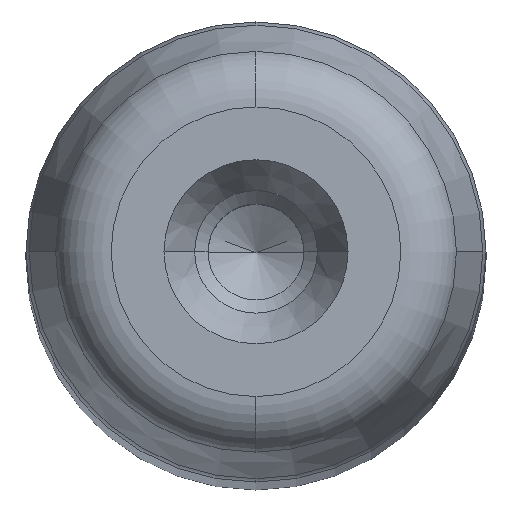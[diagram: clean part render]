
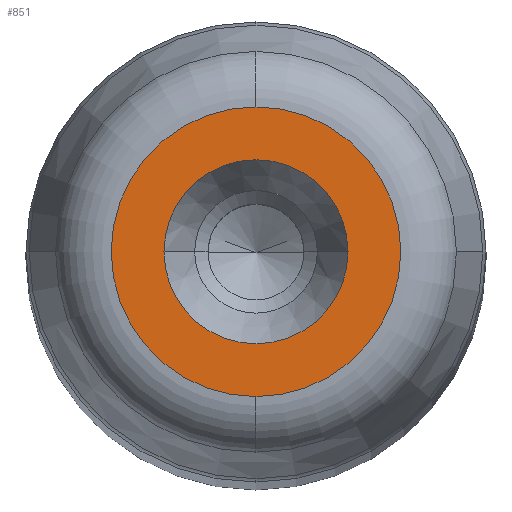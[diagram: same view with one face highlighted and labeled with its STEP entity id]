
A CAD part, top view. The second image highlights one B-rep face of the part: STEP entity #851.
In plain terms, the highlighted planar face has unit normal (0, 0, 1) as drawn and (0, 1, 0) by its records, which use the part's own axes.
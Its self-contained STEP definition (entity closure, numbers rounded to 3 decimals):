
#281=CARTESIAN_POINT('',(4.8,250.0,0.0));
#282=VERTEX_POINT('',#281);
#289=CARTESIAN_POINT('',(-4.8,250.0,0.));
#290=VERTEX_POINT('',#289);
#291=CARTESIAN_POINT('',(0.0,250.0,0.0));
#292=DIRECTION('',(0.0,1.0,0.0));
#293=DIRECTION('',(1.0,0.0,0.0));
#294=AXIS2_PLACEMENT_3D('',#291,#292,#293);
#295=CIRCLE('',#294,4.8);
#296=EDGE_CURVE('',#282,#290,#295,.T.);
#313=CARTESIAN_POINT('',(0.0,250.0,7.554));
#314=VERTEX_POINT('',#313);
#324=CARTESIAN_POINT('',(0.,250.0,-7.554));
#325=VERTEX_POINT('',#324);
#326=CARTESIAN_POINT('',(0.0,250.0,0.0));
#327=DIRECTION('',(0.0,1.0,0.0));
#328=DIRECTION('',(1.0,0.0,0.0));
#329=AXIS2_PLACEMENT_3D('',#326,#327,#328);
#330=CIRCLE('',#329,7.554);
#331=EDGE_CURVE('',#325,#314,#330,.T.);
#812=CARTESIAN_POINT('',(7.554,250.0,0.0));
#813=VERTEX_POINT('',#812);
#814=CARTESIAN_POINT('',(0.0,250.0,0.0));
#815=DIRECTION('',(0.0,1.0,0.0));
#816=DIRECTION('',(1.0,0.0,0.0));
#817=AXIS2_PLACEMENT_3D('',#814,#815,#816);
#818=CIRCLE('',#817,7.554);
#819=EDGE_CURVE('',#813,#325,#818,.T.);
#821=CARTESIAN_POINT('',(0.0,250.0,0.0));
#822=DIRECTION('',(0.0,1.0,0.0));
#823=DIRECTION('',(1.0,0.0,0.0));
#824=AXIS2_PLACEMENT_3D('',#821,#822,#823);
#825=CIRCLE('',#824,7.554);
#826=EDGE_CURVE('',#314,#813,#825,.T.);
#831=CARTESIAN_POINT('',(-8.31,250.0,-8.31));
#832=DIRECTION('',(0.0,1.0,0.0));
#833=DIRECTION('',(0.0,0.0,1.0));
#834=AXIS2_PLACEMENT_3D('',#831,#832,#833);
#835=PLANE('',#834);
#836=ORIENTED_EDGE('',*,*,#819,.T.);
#837=ORIENTED_EDGE('',*,*,#331,.T.);
#838=ORIENTED_EDGE('',*,*,#826,.T.);
#839=EDGE_LOOP('',(#836,#837,#838));
#840=FACE_OUTER_BOUND('',#839,.T.);
#841=ORIENTED_EDGE('',*,*,#296,.F.);
#842=CARTESIAN_POINT('',(0.0,250.0,0.0));
#843=DIRECTION('',(0.0,1.0,0.0));
#844=DIRECTION('',(1.0,0.0,0.0));
#845=AXIS2_PLACEMENT_3D('',#842,#843,#844);
#846=CIRCLE('',#845,4.8);
#847=EDGE_CURVE('',#290,#282,#846,.T.);
#848=ORIENTED_EDGE('',*,*,#847,.F.);
#849=EDGE_LOOP('',(#841,#848));
#850=FACE_BOUND('',#849,.T.);
#851=ADVANCED_FACE('',(#840,#850),#835,.T.);
